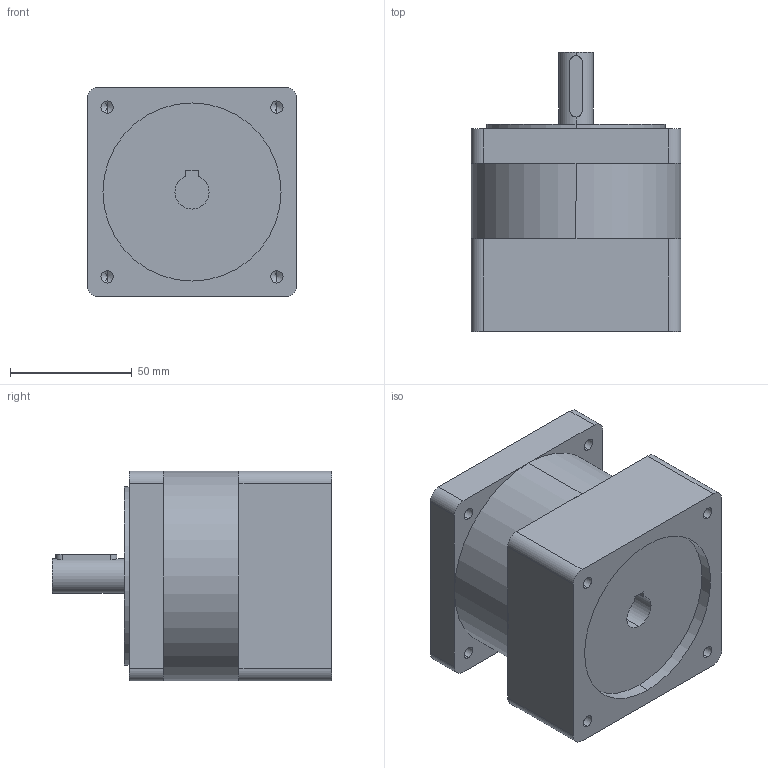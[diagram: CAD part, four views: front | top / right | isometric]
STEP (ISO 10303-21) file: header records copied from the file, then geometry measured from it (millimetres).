
FILE_DESCRIPTION (( 'STEP AP214' ), '1' );
FILE_NAME ('86PLF熬厒儂等撰.STEP', '2021-02-22T08:22:24', ( 'wimxt.com' ), ( 'wimxt.com' ), 'SwSTEP 2.0', 'SolidWorks 2014', '' );
FILE_SCHEMA (( 'AUTOMOTIVE_DESIGN' ));
Length unit declared in the file: millimetre
Products named in the file (1): 86PLF熬厒儂等撰
Bounding box: 86 x 114.5 x 86 mm (x, y, z)
Volume: 548196.8 mm3; surface area: 50220.5 mm2
Topology: 1 solids, 1 shells, 76 faces, 188 edges, 113 vertices
Faces by surface type: cylinder 38, plane 28, cone 10
Entity records: 2490 total; most frequent: CARTESIAN_POINT 434, DIRECTION 406, ORIENTED_EDGE 356, EDGE_CURVE 178, AXIS2_PLACEMENT_3D 155, VERTEX_POINT 113, LINE 96, VECTOR 96
